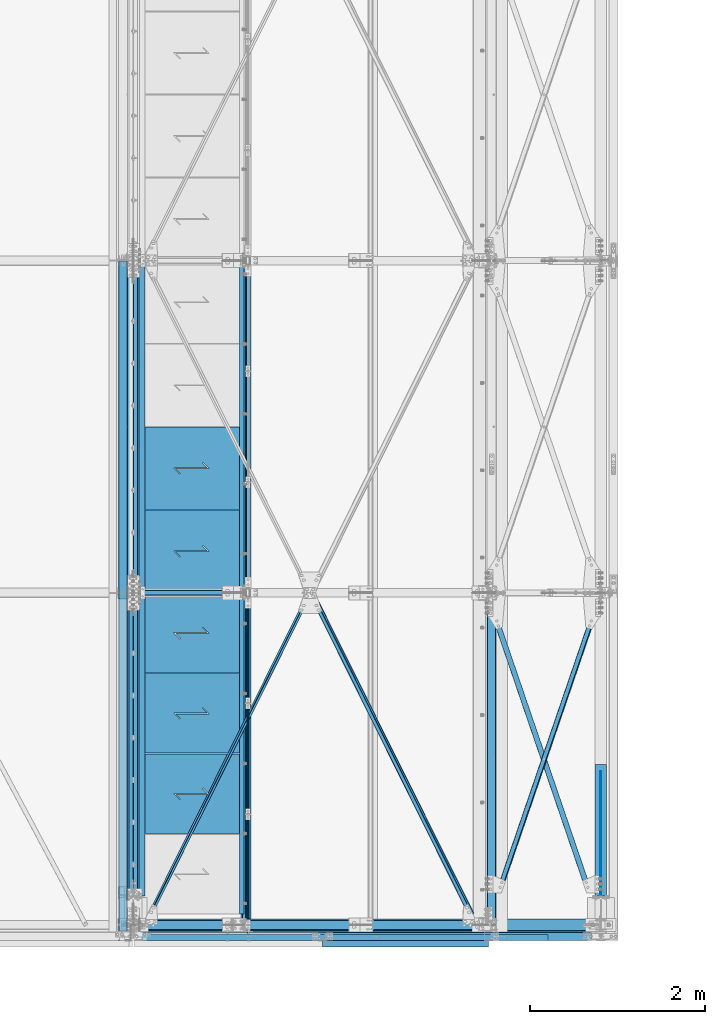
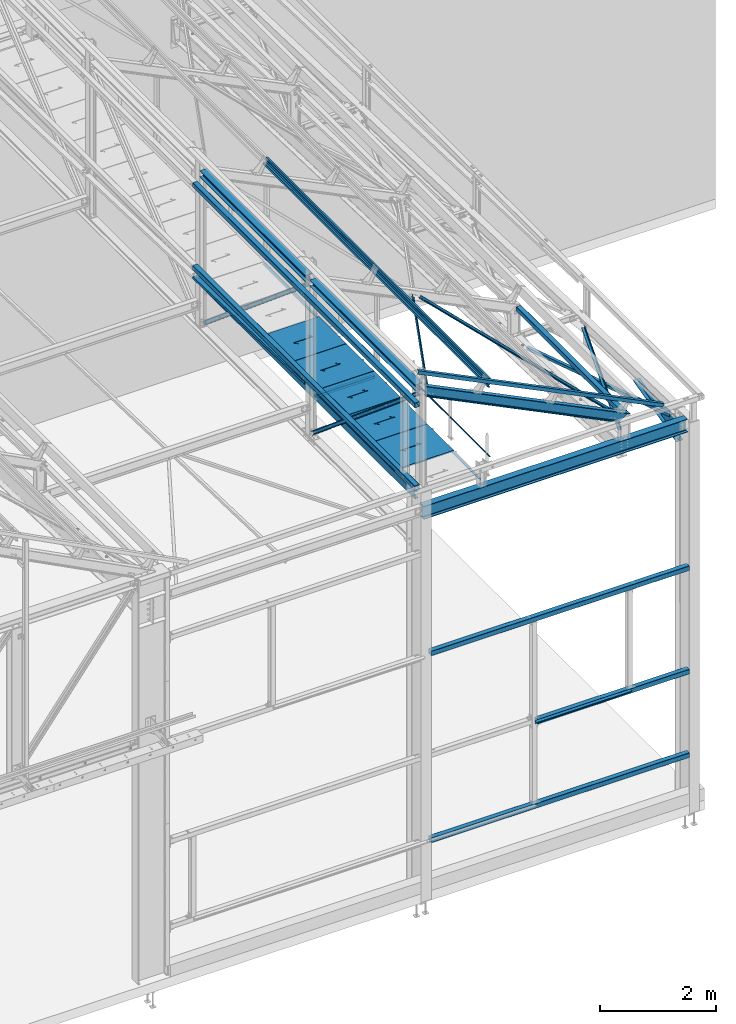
# One storey, part 55 of 362: 27 beams, 5 members, 30 elements without a shape of their own.
"""IFC2X3 building model written with IfcOpenShell, lengths in millimetres."""

from ifc_helpers import new_model, si_unit, frame, origin_with_axes, origin_2d_with_axis, place, context, subcontext, project, spatial, polyline, rectangle, hollow_rectangle, hollow_circle, i_section, l_section, u_section, outline, extrude, boolean, clip, halfspace, material, type_object, element, aggregate, save


model = new_model("IFC2X3")

# Units and contexts
model_context = context("Model", 3, precision=1e-05, world=origin_with_axes())
body_context = subcontext(model_context, "Body", "Model", "MODEL_VIEW")
ifc_project = project(units=[si_unit("LENGTHUNIT", "METRE", prefix="MILLI"), si_unit("AREAUNIT", "SQUARE_METRE"), si_unit("VOLUMEUNIT", "CUBIC_METRE"), si_unit("MASSUNIT", "GRAM", prefix="KILO"), si_unit("TIMEUNIT", "SECOND"), si_unit("PLANEANGLEUNIT", "RADIAN"), si_unit("SOLIDANGLEUNIT", "STERADIAN"), si_unit("THERMODYNAMICTEMPERATUREUNIT", "DEGREE_CELSIUS"), si_unit("LUMINOUSINTENSITYUNIT", "LUMEN")], contexts=[model_context])

# Site, building, storey
site_placement = place(None, origin_with_axes())
site = spatial("IfcSite", under=ifc_project, at=site_placement, Name="Undefined", CompositionType="ELEMENT")
building_placement = place(site_placement, origin_with_axes())
building = spatial("IfcBuilding", under=site, at=building_placement, Name="Undefined", CompositionType="ELEMENT")
storey_placement = place(building_placement, origin_with_axes())
storey = spatial("IfcBuildingStorey", under=building, at=storey_placement, Name="Undefined", CompositionType="ELEMENT", Elevation=0.0)

# Assembly, beam
assembly_1_placement = place(storey_placement, origin_with_axes())
assembly_1 = element("IfcElementAssembly", 1, at=assembly_1_placement, inside=storey, Name="SUPPORT", AssemblyPlace="NOTDEFINED", PredefinedType="NOTDEFINED")
ifc_material_1 = material(Name="Undefined/S235-E24")
beam_type_1 = type_object("IfcBeamType", Name="L50*5", PredefinedType="NOTDEFINED")
beam_1_placement = place(assembly_1_placement, frame((35521.4917137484, 7595.00000000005, 8075.0), z_axis=(-1.0, 0.0, 0.0), x_axis=(0.0, -1.0, 0.0)))
beam_1 = element("IfcBeam", 2, at=beam_1_placement, type_object=beam_type_1, material=ifc_material_1, Name="SUPPORT", ObjectType="L50*5", context=body_context, shape_type="SweptSolid", body=[
    extrude(l_section(Depth=50.0, Width=50.0, Thickness=5.0, FilletRadius=7.0, EdgeRadius=3.5, at=origin_2d_with_axis()), frame((7469.99982384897, 0.0, 0.0), z_axis=(-1.0, 0.0, 0.0), x_axis=(0.0, -1.0, 0.0)), (0.0, 0.0, 1.0), 7470.0),
])
aggregate(assembly_1, [beam_1])

assembly_2_placement = place(storey_placement, origin_with_axes())
assembly_2 = element("IfcElementAssembly", 3, at=assembly_2_placement, inside=storey, AssemblyPlace="NOTDEFINED", PredefinedType="NOTDEFINED")
beam_2_placement = place(assembly_2_placement, frame((36314.0683462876, 3801.21209552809, 9506.75815097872), z_axis=(0.784869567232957, -0.484835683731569, -0.385893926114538), x_axis=(-0.43509087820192, -0.874605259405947, 0.213919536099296)))
beam_2 = element("IfcBeam", 4, at=beam_2_placement, type_object=beam_type_1, material=ifc_material_1, Name="STABILITE CVT", ObjectType="L50*5", context=body_context, shape_type="Clipping", body=[
    clip(clip(extrude(l_section(Depth=50.0, Width=50.0, Thickness=5.0, FilletRadius=7.0, EdgeRadius=3.5, at=origin_2d_with_axis()), frame((4262.41787878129, 0.0, 1.18305861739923e-13), z_axis=(-1.0, 0.0, 0.0), x_axis=(0.0, -1.0, 0.0)), (0.0, 0.0, 1.0), 4180.02), halfspace(frame((4208.92584894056, 24.9999461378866, 24.9999985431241), z_axis=(-1.0, 0.0, 0.0), x_axis=(0.0, -1.0, 0.0)), True)), halfspace(frame((135.890681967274, 24.9993722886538, -24.9999998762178), z_axis=(1.0, 0.0, 0.0), x_axis=(0.0, -1.0, 0.0)), True)),
])
aggregate(assembly_2, [beam_2])

assembly_3_placement = place(storey_placement, origin_with_axes())
assembly_3 = element("IfcElementAssembly", 5, at=assembly_3_placement, inside=storey, AssemblyPlace="NOTDEFINED", PredefinedType="NOTDEFINED")
beam_3_placement = place(assembly_3_placement, frame((38208.3828950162, 1.21208402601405, 8575.38678262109), z_axis=(-0.78486955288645, -0.48483570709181, 0.385893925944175), x_axis=(-0.435090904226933, 0.874605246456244, 0.213919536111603)))
beam_3 = element("IfcBeam", 6, at=beam_3_placement, type_object=beam_type_1, material=ifc_material_1, Name="STABILITE CVT", ObjectType="L50*5", context=body_context, shape_type="Clipping", body=[
    clip(clip(extrude(l_section(Depth=50.0, Width=50.0, Thickness=5.0, FilletRadius=7.0, EdgeRadius=3.5, at=origin_2d_with_axis()), frame((4267.3918308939, 7.27595761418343e-12, -3.55331749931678e-13), z_axis=(-1.0, 0.0, 0.0), x_axis=(0.0, -1.0, 0.0)), (0.0, 0.0, 1.0), 4189.97), halfspace(frame((4208.92662626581, 24.9993342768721, -25.0000000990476), z_axis=(1.0, 0.0, 0.0), x_axis=(0.0, -1.0, 0.0)), False)), halfspace(frame((135.89147841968, 24.9987115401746, 24.9999250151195), z_axis=(1.0, 0.0, 0.0), x_axis=(0.0, 0.0, -1.0)), True)),
])
aggregate(assembly_3, [beam_3])

assembly_4_placement = place(storey_placement, origin_with_axes())
assembly_4 = element("IfcElementAssembly", 7, at=assembly_4_placement, inside=storey, AssemblyPlace="NOTDEFINED", PredefinedType="NOTDEFINED")
beam_type_2 = type_object("IfcBeamType", Name="L60*6", PredefinedType="NOTDEFINED")
beam_4_placement = place(assembly_4_placement, frame((39627.161389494, -3.98559414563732, 7894.04752087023), z_axis=(0.946212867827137, 0.323385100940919, -0.0101629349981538), x_axis=(-0.323544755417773, 0.945745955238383, -0.0297216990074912)))
beam_4 = element("IfcBeam", 8, at=beam_4_placement, type_object=beam_type_2, material=ifc_material_1, Name="STABILITE CVT", ObjectType="L60*6", context=body_context, shape_type="Clipping", body=[
    clip(clip(extrude(l_section(Depth=60.0, Width=60.0, Thickness=6.0, FilletRadius=8.0, EdgeRadius=4.0, at=origin_2d_with_axis()), frame((3750.95227309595, 0.0, 3.7963490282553e-13), z_axis=(-1.0, 0.0, 0.0), x_axis=(0.0, -1.0, 0.0)), (0.0, 0.0, 1.0), 3363.91), halfspace(frame((3710.26372269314, 60.0043479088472, -30.000010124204), z_axis=(-0.99999999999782, -2.08799999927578e-06, 0.0), x_axis=(-1.15500000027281e-06, 0.999999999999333, 0.0)), True)), halfspace(frame((427.727369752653, 60.0002311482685, 29.9999514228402), z_axis=(0.999999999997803, 2.09200000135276e-06, 1.31999999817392e-07), x_axis=(-1.15500000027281e-06, 0.999999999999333, 0.0)), True)),
])
aggregate(assembly_4, [beam_4])

assembly_5_placement = place(storey_placement, origin_with_axes())
assembly_5 = element("IfcElementAssembly", 9, at=assembly_5_placement, inside=storey, AssemblyPlace="NOTDEFINED", PredefinedType="NOTDEFINED")
beam_5_placement = place(assembly_5_placement, frame((38332.8386386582, -1.91251005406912, 7960.01489811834), z_axis=(-0.946212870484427, 0.323385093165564, -0.0101629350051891), x_axis=(0.32354466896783, 0.945745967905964, -0.0297222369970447)))
beam_5 = element("IfcBeam", 10, at=beam_5_placement, type_object=beam_type_2, material=ifc_material_1, Name="STABILITE CVT", ObjectType="L60*6", context=body_context, shape_type="Clipping", body=[
    clip(clip(extrude(l_section(Depth=60.0, Width=60.0, Thickness=6.0, FilletRadius=8.0, EdgeRadius=4.0, at=origin_2d_with_axis()), frame((3749.34856419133, 0.0, 3.16667539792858e-13), z_axis=(-1.0, 0.0, 0.0), x_axis=(0.0, -1.0, 0.0)), (0.0, 0.0, 1.0), 3360.71), halfspace(frame((3710.26373630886, -60.0043358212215, -30.0000327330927), z_axis=(0.999999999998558, -1.69800000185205e-06, 0.0), x_axis=(-1.23815191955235e-06, -0.999999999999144, -4.23097022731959e-07)), False)), halfspace(frame((427.727444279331, -60.0002447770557, 29.9999646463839), z_axis=(-0.999999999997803, 2.09199999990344e-06, -1.31999999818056e-07), x_axis=(-1.23815191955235e-06, -0.999999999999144, -4.23097022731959e-07)), False)),
])
aggregate(assembly_5, [beam_5])

assembly_6_placement = place(storey_placement, origin_with_axes())
assembly_6 = element("IfcElementAssembly", 11, at=assembly_6_placement, inside=storey, Name="LISSE", AssemblyPlace="NOTDEFINED", PredefinedType="NOTDEFINED")
beam_type_3 = type_object("IfcBeamType", Name="UPF-100*50*4", PredefinedType="NOTDEFINED")
beam_6_placement = place(assembly_6_placement, frame((34163.5001162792, 3730.03454686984, 8413.05496432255), z_axis=(1.0, 0.0, 0.0), x_axis=(0.0, 0.99950644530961, -0.0314144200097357)))
beam_6 = element("IfcBeam", 12, at=beam_6_placement, type_object=beam_type_3, material=ifc_material_1, Name="LISSE CONTREBARDAGE", ObjectType="UPF-100*50*4", context=body_context, shape_type="SweptSolid", body=[
    extrude(u_section(Depth=100.0, FlangeWidth=50.0, WebThickness=4.0, FlangeThickness=4.0, at=origin_2d_with_axis()), frame((3864.8364307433, 0.0, 0.0), z_axis=(-1.0, 0.0, 0.0), x_axis=(0.0, -1.0, 0.0)), (0.0, 0.0, 1.0), 3864.84),
])
aggregate(assembly_6, [beam_6])

assembly_7_placement = place(storey_placement, origin_with_axes())
assembly_7 = element("IfcElementAssembly", 13, at=assembly_7_placement, inside=storey, Name="LISSE", AssemblyPlace="NOTDEFINED", PredefinedType="NOTDEFINED")
beam_type_4 = type_object("IfcBeamType", Name="TUBE-C-100*100*4", PredefinedType="NOTDEFINED")
beam_7_placement = place(assembly_7_placement, frame((36500.0025851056, -129.999792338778, 2810.00000034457), z_axis=(0.0, 0.0, -1.0), x_axis=(1.0, 0.0, 0.0)))
beam_7 = element("IfcBeam", 14, at=beam_7_placement, type_object=beam_type_4, material=ifc_material_1, Name="LISSE CHASSIS", ObjectType="TUBE-C-100*100*4", context=body_context, shape_type="SweptSolid", body=[
    extrude(hollow_rectangle(XDim=100.0, YDim=100.0, WallThickness=4.0, InnerFilletRadius=4.0, OuterFilletRadius=8.0, at=origin_2d_with_axis()), frame((3024.99741454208, -2.82644087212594e-21, -4.54747350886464e-13), z_axis=(-1.0, 0.0, 0.0), x_axis=(0.0, -1.0, 0.0)), (0.0, 0.0, 1.0), 3025.0),
])

assembly_8_placement = place(storey_placement, origin_with_axes())
assembly_8 = element("IfcElementAssembly", 15, at=assembly_8_placement, inside=storey, Name="LISSE", AssemblyPlace="NOTDEFINED", PredefinedType="NOTDEFINED")
beam_8_placement = place(assembly_8_placement, frame((34163.4999999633, -70.0000009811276, 10244.999999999), z_axis=(0.0, 0.0, -1.0), x_axis=(0.0, 1.0, 0.0)))
beam_8 = element("IfcBeam", 16, at=beam_8_placement, type_object=beam_type_4, material=ifc_material_1, Name="LISSE ACROTERE", ObjectType="TUBE-C-100*100*4", context=body_context, shape_type="SweptSolid", body=[
    extrude(hollow_rectangle(XDim=100.0, YDim=100.0, WallThickness=4.0, InnerFilletRadius=4.0, OuterFilletRadius=8.0, at=origin_2d_with_axis()), frame((7664.99999999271, 0.0, 0.0), z_axis=(-1.0, 0.0, 0.0), x_axis=(0.0, -1.0, 0.0)), (0.0, 0.0, 1.0), 7665.0),
])
aggregate(assembly_8, [beam_8])

assembly_9_placement = place(storey_placement, origin_with_axes())
assembly_9 = element("IfcElementAssembly", 17, at=assembly_9_placement, inside=storey, Name="LISSE", AssemblyPlace="NOTDEFINED", PredefinedType="NOTDEFINED")
beam_9_placement = place(assembly_9_placement, frame((34384.9999999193, -129.999801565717, 4989.99996534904), z_axis=(0.0, 0.0, 1.0), x_axis=(1.0, 0.0, 0.0)))
beam_9 = element("IfcBeam", 18, at=beam_9_placement, type_object=beam_type_4, material=ifc_material_1, Name="LISSE CHASSIS", ObjectType="TUBE-C-100*100*4", context=body_context, shape_type="SweptSolid", body=[
    extrude(hollow_rectangle(XDim=100.0, YDim=100.0, WallThickness=4.0, InnerFilletRadius=4.0, OuterFilletRadius=8.0, at=origin_2d_with_axis()), frame((5139.99999998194, -7.8549075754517e-22, 0.0), z_axis=(-1.0, 0.0, 0.0), x_axis=(0.0, -1.0, 0.0)), (0.0, 0.0, 1.0), 5140.0),
])
aggregate(assembly_9, [beam_9])

assembly_10_placement = place(storey_placement, origin_with_axes())
assembly_10 = element("IfcElementAssembly", 19, at=assembly_10_placement, inside=storey, Name="LISSE", AssemblyPlace="NOTDEFINED", PredefinedType="NOTDEFINED")
beam_10_placement = place(assembly_10_placement, frame((34385.0000004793, -129.999801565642, 1049.99996534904), z_axis=(0.0, 0.0, 1.0), x_axis=(1.0, 0.0, 0.0)))
beam_10 = element("IfcBeam", 20, at=beam_10_placement, type_object=beam_type_4, material=ifc_material_1, Name="LISSE CHASSIS", ObjectType="TUBE-C-100*100*4", context=body_context, shape_type="SweptSolid", body=[
    extrude(hollow_rectangle(XDim=100.0, YDim=100.0, WallThickness=4.0, InnerFilletRadius=4.0, OuterFilletRadius=8.0, at=origin_2d_with_axis()), frame((5139.99999998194, -7.8549075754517e-22, 0.0), z_axis=(-1.0, 0.0, 0.0), x_axis=(0.0, -1.0, 0.0)), (0.0, 0.0, 1.0), 5140.0),
])
aggregate(assembly_10, [beam_10])

assembly_11_placement = place(storey_placement, origin_with_axes())
assembly_11 = element("IfcElementAssembly", 21, at=assembly_11_placement, inside=storey, Name="LISSE", AssemblyPlace="NOTDEFINED", PredefinedType="NOTDEFINED")
beam_11_placement = place(assembly_11_placement, frame((34163.5, -70.0, 8500.0), z_axis=(0.0, 0.0, 1.0), x_axis=(0.0, 1.0, 0.0)))
beam_11 = element("IfcBeam", 22, at=beam_11_placement, type_object=beam_type_4, material=ifc_material_1, Name="LISSE ACROTERE", ObjectType="TUBE-C-100*100*4", context=body_context, shape_type="SweptSolid", body=[
    extrude(hollow_rectangle(XDim=100.0, YDim=100.0, WallThickness=4.0, InnerFilletRadius=4.0, OuterFilletRadius=8.0, at=origin_2d_with_axis()), frame((7664.99999999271, 0.0, 0.0), z_axis=(-1.0, 0.0, 0.0), x_axis=(0.0, -1.0, 0.0)), (0.0, 0.0, 1.0), 7665.0),
])
aggregate(assembly_11, [beam_11])

assembly_12_placement = place(storey_placement, origin_with_axes())
assembly_12 = element("IfcElementAssembly", 23, at=assembly_12_placement, inside=storey, Name="LISSE", AssemblyPlace="NOTDEFINED", PredefinedType="NOTDEFINED")
beam_12_placement = place(assembly_12_placement, frame((38380.0, 70.0, 8500.0), z_axis=(0.0, 0.0, 1.0), x_axis=(0.0, 1.0, 0.0)))
beam_12 = element("IfcBeam", 24, at=beam_12_placement, type_object=beam_type_4, material=ifc_material_1, Name="LISSE ACROTERE", ObjectType="TUBE-C-100*100*4", context=body_context, shape_type="SweptSolid", body=[
    extrude(hollow_rectangle(XDim=100.0, YDim=100.0, WallThickness=4.0, InnerFilletRadius=4.0, OuterFilletRadius=8.0, at=origin_2d_with_axis()), frame((3660.0, 0.0, 0.0), z_axis=(-1.0, 0.0, 0.0), x_axis=(0.0, -1.0, 0.0)), (0.0, 0.0, 1.0), 3660.0),
])
aggregate(assembly_12, [beam_12])

assembly_13_placement = place(storey_placement, origin_with_axes())
assembly_13 = element("IfcElementAssembly", 25, at=assembly_13_placement, inside=storey, AssemblyPlace="NOTDEFINED", PredefinedType="NOTDEFINED")
beam_type_5 = type_object("IfcBeamType", Name="TOLE30*910", PredefinedType="NOTDEFINED")
beam_13_placement = place(assembly_13_placement, frame((35536.4916120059, 1955.00033356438, 8115.0), z_axis=(0.0, 0.0, 1.0), x_axis=(-1.0, 0.0, 0.0)))
beam_13 = element("IfcBeam", 26, at=beam_13_placement, type_object=beam_type_5, material=ifc_material_1, Name="CAILLEBOTIS", ObjectType="TOLE30*910", context=body_context, shape_type="CSG", body=[
    boolean("DIFFERENCE", extrude(outline(polyline([(0.0, 0.0), (1179.99169921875, 0.0), (1179.99169921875, 910.0), (-9.39995516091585e-07, 910.0), (0.0, 0.0)])), frame((0.0, 0.0, -15.0), z_axis=(0.0, 0.0, 1.0), x_axis=(1.0, 0.0, 0.0)), (0.0, 0.0, 1.0), 30.0), extrude(outline(polyline([(0.0, 0.0), (9.99999999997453, 6.91215973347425e-11), (10.0000000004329, 75.8578643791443), (282.842712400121, -196.984848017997), (282.842712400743, -96.9848480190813), (272.842712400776, -96.9848480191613), (272.842712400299, -172.842712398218), (0.0, 100.0), (0.0, 0.0)])), frame((724.285170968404, 520.710678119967, -17.5), z_axis=(0.0, 0.0, 1.0), x_axis=(-0.707106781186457, -0.707106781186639, 0.0)), (0.0, 0.0, 1.0), 35.0)),
])
aggregate(assembly_13, [beam_13])

assembly_14_placement = place(storey_placement, origin_with_axes())
assembly_14 = element("IfcElementAssembly", 27, at=assembly_14_placement, inside=storey, AssemblyPlace="NOTDEFINED", PredefinedType="NOTDEFINED")
beam_14_placement = place(assembly_14_placement, frame((35536.4916120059, 2875.00032879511, 8115.0), z_axis=(0.0, 0.0, 1.0), x_axis=(-1.0, 0.0, 0.0)))
beam_14 = element("IfcBeam", 28, at=beam_14_placement, type_object=beam_type_5, material=ifc_material_1, Name="CAILLEBOTIS", ObjectType="TOLE30*910", context=body_context, shape_type="CSG", body=[
    boolean("DIFFERENCE", extrude(outline(polyline([(0.0, 0.0), (1179.99169921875, 0.0), (1179.99169921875, 910.0), (-9.39995516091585e-07, 910.0), (0.0, 0.0)])), frame((0.0, 0.0, -15.0), z_axis=(0.0, 0.0, 1.0), x_axis=(1.0, 0.0, 0.0)), (0.0, 0.0, 1.0), 30.0), extrude(outline(polyline([(0.0, 0.0), (9.99999999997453, 6.91215973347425e-11), (10.0000000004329, 75.8578643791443), (282.842712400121, -196.984848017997), (282.842712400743, -96.9848480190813), (272.842712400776, -96.9848480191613), (272.842712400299, -172.842712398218), (0.0, 100.0), (0.0, 0.0)])), frame((724.285170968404, 520.710678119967, -17.5), z_axis=(0.0, 0.0, 1.0), x_axis=(-0.707106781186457, -0.707106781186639, 0.0)), (0.0, 0.0, 1.0), 35.0)),
])
aggregate(assembly_14, [beam_14])

assembly_15_placement = place(storey_placement, origin_with_axes())
assembly_15 = element("IfcElementAssembly", 29, at=assembly_15_placement, inside=storey, AssemblyPlace="NOTDEFINED", PredefinedType="NOTDEFINED")
beam_15_placement = place(assembly_15_placement, frame((35536.4916120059, 3795.00032402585, 8115.0), z_axis=(0.0, 0.0, 1.0), x_axis=(-1.0, 0.0, 0.0)))
beam_15 = element("IfcBeam", 30, at=beam_15_placement, type_object=beam_type_5, material=ifc_material_1, Name="CAILLEBOTIS", ObjectType="TOLE30*910", context=body_context, shape_type="CSG", body=[
    boolean("DIFFERENCE", extrude(outline(polyline([(0.0, 0.0), (1179.99169921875, 0.0), (1179.99169921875, 910.0), (-9.39995516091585e-07, 910.0), (0.0, 0.0)])), frame((0.0, 0.0, -15.0), z_axis=(0.0, 0.0, 1.0), x_axis=(1.0, 0.0, 0.0)), (0.0, 0.0, 1.0), 30.0), extrude(outline(polyline([(0.0, 0.0), (9.99999999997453, 6.91215973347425e-11), (10.0000000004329, 75.8578643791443), (282.842712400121, -196.984848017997), (282.842712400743, -96.9848480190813), (272.842712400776, -96.9848480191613), (272.842712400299, -172.842712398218), (0.0, 100.0), (0.0, 0.0)])), frame((724.285170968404, 520.710678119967, -17.5), z_axis=(0.0, 0.0, 1.0), x_axis=(-0.707106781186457, -0.707106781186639, 0.0)), (0.0, 0.0, 1.0), 35.0)),
])
aggregate(assembly_15, [beam_15])

assembly_16_placement = place(storey_placement, origin_with_axes())
assembly_16 = element("IfcElementAssembly", 31, at=assembly_16_placement, inside=storey, AssemblyPlace="NOTDEFINED", PredefinedType="NOTDEFINED")
beam_type_6 = type_object("IfcBeamType", Name="TOLE30*940", PredefinedType="NOTDEFINED")
beam_16_placement = place(assembly_16_placement, frame((35536.4915949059, 4745.00031925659, 8115.0), z_axis=(0.0, 0.0, 1.0), x_axis=(-1.0, 0.0, 0.0)))
beam_16 = element("IfcBeam", 32, at=beam_16_placement, type_object=beam_type_6, material=ifc_material_1, Name="CAILLEBOTIS", ObjectType="TOLE30*940", context=body_context, shape_type="CSG", body=[
    boolean("DIFFERENCE", extrude(outline(polyline([(0.0, 0.0), (1179.99169921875, 0.0), (1179.99169921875, 940.0), (-9.39995516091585e-07, 940.0), (0.0, 0.0)])), frame((0.0, 0.0, -15.0), z_axis=(0.0, 0.0, 1.0), x_axis=(1.0, 0.0, 0.0)), (0.0, 0.0, 1.0), 30.0), extrude(outline(polyline([(0.0, 0.0), (9.99999999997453, 6.91215973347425e-11), (10.0000000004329, 75.8578643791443), (282.842712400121, -196.984848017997), (282.842712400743, -96.9848480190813), (272.842712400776, -96.9848480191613), (272.842712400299, -172.842712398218), (0.0, 100.0), (0.0, 0.0)])), frame((724.286946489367, 535.710676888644, -17.5), z_axis=(0.0, 0.0, 1.0), x_axis=(-0.707106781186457, -0.707106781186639, 0.0)), (0.0, 0.0, 1.0), 35.0)),
])
aggregate(assembly_16, [beam_16])

assembly_17_placement = place(storey_placement, origin_with_axes())
assembly_17 = element("IfcElementAssembly", 33, at=assembly_17_placement, inside=storey, AssemblyPlace="NOTDEFINED", PredefinedType="NOTDEFINED")
beam_17_placement = place(assembly_17_placement, frame((35536.4916006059, 5695.00031925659, 8115.0), z_axis=(0.0, 0.0, 1.0), x_axis=(-1.0, 0.0, 0.0)))
beam_17 = element("IfcBeam", 34, at=beam_17_placement, type_object=beam_type_6, material=ifc_material_1, Name="CAILLEBOTIS", ObjectType="TOLE30*940", context=body_context, shape_type="CSG", body=[
    boolean("DIFFERENCE", extrude(outline(polyline([(0.0, 0.0), (1179.99169921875, 0.0), (1179.99169921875, 940.0), (-9.39995516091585e-07, 940.0), (0.0, 0.0)])), frame((0.0, 0.0, -15.0), z_axis=(0.0, 0.0, 1.0), x_axis=(1.0, 0.0, 0.0)), (0.0, 0.0, 1.0), 30.0), extrude(outline(polyline([(0.0, 0.0), (9.99999999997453, 6.91215973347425e-11), (10.0000000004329, 75.8578643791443), (282.842712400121, -196.984848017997), (282.842712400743, -96.9848480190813), (272.842712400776, -96.9848480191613), (272.842712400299, -172.842712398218), (0.0, 100.0), (0.0, 0.0)])), frame((724.286946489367, 535.710676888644, -17.5), z_axis=(0.0, 0.0, 1.0), x_axis=(-0.707106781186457, -0.707106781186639, 0.0)), (0.0, 0.0, 1.0), 35.0)),
])
aggregate(assembly_17, [beam_17])

# Beam
beam_type_7 = type_object("IfcBeamType", Name="L70*7", PredefinedType="NOTDEFINED")
beam_18_placement = place(assembly_7_placement, frame((36445.0025836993, -215.000007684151, 2825.0), z_axis=(0.0, -1.0, 0.0), x_axis=(1.0, 0.0, 0.0)))
beam_18 = element("IfcBeam", 35, at=beam_18_placement, type_object=beam_type_7, material=ifc_material_1, Name="SUPPORT", ObjectType="L70*7", context=body_context, shape_type="SweptSolid", body=[
    extrude(l_section(Depth=70.0, Width=70.0, Thickness=7.0, FilletRadius=9.0, EdgeRadius=4.5, at=origin_2d_with_axis()), frame((1899.99781571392, 0.0, 0.0), z_axis=(-1.0, 0.0, 0.0), x_axis=(0.0, -1.0, 0.0)), (0.0, 0.0, 1.0), 1900.0),
])

aggregate(assembly_7, [beam_7, beam_18])

# Assembly, beams
assembly_18_placement = place(storey_placement, origin_with_axes())
assembly_18 = element("IfcElementAssembly", 36, at=assembly_18_placement, inside=storey, Name="TRAVERSE", AssemblyPlace="NOTDEFINED", PredefinedType="NOTDEFINED")
beam_type_8 = type_object("IfcBeamType", Name="TOLE8*417", PredefinedType="NOTDEFINED")
beam_19_placement = place(assembly_18_placement, frame((39630.0, 335.0, 7769.33890642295), z_axis=(-1.0, 0.0, 0.0), x_axis=(3.14103090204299e-11, 0.999506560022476, -0.0314107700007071)))
beam_19 = element("IfcBeam", 37, at=beam_19_placement, type_object=beam_type_8, material=ifc_material_1, Name="JARRET", ObjectType="TOLE8*417", context=body_context, shape_type="SweptSolid", body=[
    extrude(outline(polyline([(0.942322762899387, 29.9851968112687), (30.0, 0.0), (1419.99999999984, -1.22432538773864e-09), (1423.27844149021, 22.6672111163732), (42.569691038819, 430.594491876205), (12.856783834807, 409.109499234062), (0.942322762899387, 29.9851968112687)])), frame((0.0, 0.0, -4.0), z_axis=(0.0, 0.0, 1.0), x_axis=(1.0, 0.0, 0.0)), (0.0, 0.0, 1.0), 8.0),
])
beam_type_9 = type_object("IfcBeamType", Name="PL10*135", PredefinedType="NOTDEFINED")
beam_20_placement = place(assembly_18_placement, frame((39630.0, 1835.52522447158, 7717.38553692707), z_axis=(1.0, 0.0, 0.0), x_axis=(0.0, -0.967446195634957, -0.253076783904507)))
beam_20 = element("IfcBeam", 38, at=beam_20_placement, type_object=beam_type_9, material=ifc_material_1, Name="JARRET", ObjectType="PL10*135", context=body_context, shape_type="SweptSolid", body=[
    extrude(rectangle(XDim=10.0, YDim=135.0, at=origin_2d_with_axis()), frame((1549.7087562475, 0.0, 0.0), z_axis=(-1.0, 0.0, 0.0), x_axis=(0.0, -1.0, 0.0)), (0.0, 0.0, 1.0), 1549.71),
])
aggregate(assembly_18, [beam_19, beam_20])

# Assembly, beam
assembly_19_placement = place(storey_placement, origin_with_axes())
assembly_19 = element("IfcElementAssembly", 39, at=assembly_19_placement, inside=storey, Name="MAIN COURANTE", AssemblyPlace="NOTDEFINED", PredefinedType="NOTDEFINED")
beam_type_10 = type_object("IfcBeamType", Name="TUBE-26.9*2", PredefinedType="NOTDEFINED")
beam_21_placement = place(assembly_19_placement, frame((35593.9917143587, 3744.99999422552, 8673.80000478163), z_axis=(0.0, 0.0, 1.0), x_axis=(0.0, -1.0, 0.0)))
beam_21 = element("IfcBeam", 40, at=beam_21_placement, type_object=beam_type_10, material=ifc_material_1, Name="LISSE", ObjectType="TUBE-26.9*2", context=body_context, shape_type="SweptSolid", body=[
    extrude(hollow_circle(Radius=13.44999981, WallThickness=2.0, at=origin_2d_with_axis()), frame((3845.00000000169, 3.84500099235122e-24, 0.0), z_axis=(-1.0, 0.0, 0.0), x_axis=(0.0, -1.0, 0.0)), (0.0, 0.0, 1.0), 3845.0),
])
aggregate(assembly_19, [beam_21])

assembly_20_placement = place(storey_placement, origin_with_axes())
assembly_20 = element("IfcElementAssembly", 41, at=assembly_20_placement, inside=storey, AssemblyPlace="NOTDEFINED", PredefinedType="NOTDEFINED")
ifc_material_2 = material(Name="Undefined/S275-E28")
beam_type_11 = type_object("IfcBeamType", Name="HEA140", PredefinedType="NOTDEFINED")
beam_22_placement = place(assembly_20_placement, frame((34283.5, 3725.0, 10489.5), z_axis=(0.0, 0.0, 1.0), x_axis=(0.0, -1.0, 0.0)))
beam_22 = element("IfcBeam", 42, at=beam_22_placement, type_object=beam_type_11, material=ifc_material_2, Name="LONGERON", ObjectType="HEA140", context=body_context, shape_type="SweptSolid", body=[
    extrude(i_section(OverallWidth=140.0, OverallDepth=133.0, WebThickness=5.5, FlangeThickness=8.5, FilletRadius=12.0, at=origin_2d_with_axis()), frame((3650.0, 0.0, 0.0), z_axis=(-1.0, 0.0, 0.0), x_axis=(0.0, -1.0, 0.0)), (0.0, 0.0, 1.0), 3650.0),
])
aggregate(assembly_20, [beam_22])

assembly_21_placement = place(storey_placement, origin_with_axes())
assembly_21 = element("IfcElementAssembly", 43, at=assembly_21_placement, inside=storey, AssemblyPlace="NOTDEFINED", PredefinedType="NOTDEFINED")
beam_23_placement = place(assembly_21_placement, frame((34283.5, 7525.0, 10489.5), z_axis=(0.0, 0.0, 1.0), x_axis=(0.0, -1.0, 0.0)))
beam_23 = element("IfcBeam", 44, at=beam_23_placement, type_object=beam_type_11, material=ifc_material_2, Name="LONGERON", ObjectType="HEA140", context=body_context, shape_type="SweptSolid", body=[
    extrude(i_section(OverallWidth=140.0, OverallDepth=133.0, WebThickness=5.5, FlangeThickness=8.5, FilletRadius=12.0, at=origin_2d_with_axis()), frame((3650.0, 0.0, 0.0), z_axis=(-1.0, 0.0, 0.0), x_axis=(0.0, -1.0, 0.0)), (0.0, 0.0, 1.0), 3650.0),
])
aggregate(assembly_21, [beam_23])

assembly_22_placement = place(storey_placement, origin_with_axes())
assembly_22 = element("IfcElementAssembly", 45, at=assembly_22_placement, inside=storey, AssemblyPlace="NOTDEFINED", PredefinedType="NOTDEFINED")
beam_type_12 = type_object("IfcBeamType", Name="UPF-150*70*5", PredefinedType="NOTDEFINED")
beam_24_placement = place(assembly_22_placement, frame((34381.500055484, 330.000000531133, 8025.0), z_axis=(0.0, 0.0, 1.0), x_axis=(0.0, 1.0, 0.0)))
beam_24 = element("IfcBeam", 46, at=beam_24_placement, type_object=beam_type_12, material=ifc_material_1, Name="LONGERON", ObjectType="UPF-150*70*5", context=body_context, shape_type="SweptSolid", body=[
    extrude(u_section(Depth=150.0, FlangeWidth=70.0, WebThickness=5.0, FlangeThickness=5.0, at=origin_2d_with_axis()), frame((7265.00000099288, 0.0, 0.0), z_axis=(-1.0, 0.0, 0.0), x_axis=(0.0, -1.0, 0.0)), (0.0, 0.0, 1.0), 7265.0),
])
aggregate(assembly_22, [beam_24])

assembly_23_placement = place(storey_placement, origin_with_axes())
assembly_23 = element("IfcElementAssembly", 47, at=assembly_23_placement, inside=storey, Name="PANNE SHED", AssemblyPlace="NOTDEFINED", PredefinedType="NOTDEFINED")
beam_type_13 = type_object("IfcBeamType", Name="B140/150", PredefinedType="NOTDEFINED")
beam_25_placement = place(assembly_23_placement, frame((35571.322170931, -154.999920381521, 10245.2429542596), z_axis=(0.44122107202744, 0.0, 0.89739844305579), x_axis=(0.0, 1.0, 0.0)))
beam_25 = element("IfcBeam", 48, at=beam_25_placement, type_object=beam_type_13, material=ifc_material_1, Name="PANNE SHED", ObjectType="B140/150", context=body_context, shape_type="SweptSolid", body=[
    extrude(outline(polyline([(-27.9999999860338, 36.0000000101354), (-27.999999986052, 70.0000000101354), (28.0000000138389, 70.0000000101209), (28.0000000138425, 58.0000000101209), (26.5000000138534, 58.0000000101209), (26.5000000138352, 68.5000000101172), (-26.4999999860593, 68.5000000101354), (-26.4999999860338, 36.7000007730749), (-1.49999998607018, 15.6999998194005), (-1.49999998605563, -15.6999997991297), (-26.4999999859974, -36.7000007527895), (-26.4999999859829, -68.49999998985), (26.5000000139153, -68.4999999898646), (26.500000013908, -57.9999999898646), (28.0000000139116, -57.9999999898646), (28.0000000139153, -69.9999999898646), (-27.9999999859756, -69.99999998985), (-27.9999999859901, -35.99999998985), (-2.99999998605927, -14.9999999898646), (-2.9999999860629, 15.0000000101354), (-27.9999999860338, 36.0000000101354)])), frame((7750.00000000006, -3.63797880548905e-12, 0.0), z_axis=(-1.0, 0.0, 0.0), x_axis=(0.0, -1.0, 0.0)), (0.0, 0.0, 1.0), 7750.0),
])
aggregate(assembly_23, [beam_25])

# Assembly, member
assembly_24_placement = place(storey_placement, origin_with_axes())
assembly_24 = element("IfcElementAssembly", 49, at=assembly_24_placement, inside=storey, AssemblyPlace="NOTDEFINED", PredefinedType="NOTDEFINED")
member_type_1 = type_object("IfcMemberType", Name="L70*7", PredefinedType="NOTDEFINED")
member_1_placement = place(assembly_24_placement, frame((34119.0787216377, -144.999999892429, 11006.064600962), z_axis=(-0.441220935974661, 0.0, -0.89739850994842), x_axis=(0.897398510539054, 0.0, -0.44122093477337)))
member_1 = element("IfcMember", 50, at=member_1_placement, type_object=member_type_1, material=ifc_material_1, Name="FEUILLURE", ObjectType="L70*7", context=body_context, shape_type="SweptSolid", body=[
    extrude(l_section(Depth=70.0, Width=70.0, Thickness=7.0, FilletRadius=9.0, EdgeRadius=4.5, at=origin_2d_with_axis()), frame((5450.00354320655, 0.0, -3.0253597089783e-13), z_axis=(-1.0, 0.0, 0.0), x_axis=(0.0, -1.0, 0.0)), (0.0, 0.0, 1.0), 5450.0),
])
aggregate(assembly_24, [member_1])

assembly_25_placement = place(storey_placement, origin_with_axes())
assembly_25 = element("IfcElementAssembly", 51, at=assembly_25_placement, inside=storey, AssemblyPlace="NOTDEFINED", PredefinedType="NOTDEFINED")
member_type_2 = type_object("IfcMemberType", Name="UPN80", PredefinedType="NOTDEFINED")
member_2_placement = place(assembly_25_placement, frame((34307.4999999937, 7599.99999999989, 7250.0), z_axis=(0.0, -0.640939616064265, -0.767591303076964), x_axis=(0.0, -0.767591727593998, 0.640939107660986)))
member_2 = element("IfcMember", 52, at=member_2_placement, type_object=member_type_2, material=ifc_material_2, Name="DIAGONALE", ObjectType="UPN80", context=body_context, shape_type="Clipping", body=[
    clip(clip(extrude(u_section(Depth=80.0, FlangeWidth=45.0, WebThickness=6.0, FlangeThickness=8.0, FilletRadius=8.0, EdgeRadius=4.0, FlangeSlope=0.0798299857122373, at=origin_2d_with_axis()), frame((4910.05224962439, 0.0, 1.04649042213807e-12), z_axis=(-1.0, 0.0, 0.0), x_axis=(0.0, -1.0, 0.0)), (0.0, 0.0, 1.0), 4869.56), halfspace(frame((4830.54835301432, 27.49999999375, -39.9999989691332), z_axis=(-1.0, 0.0, 0.0), x_axis=(0.0, 1.0, 0.0)), True)), halfspace(frame((119.999999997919, 27.49999999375, -39.9999989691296), z_axis=(-1.0, 0.0, 0.0), x_axis=(0.0, 1.0, 0.0)), False)),
])
aggregate(assembly_25, [member_2])

assembly_26_placement = place(storey_placement, origin_with_axes())
assembly_26 = element("IfcElementAssembly", 53, at=assembly_26_placement, inside=storey, AssemblyPlace="NOTDEFINED", PredefinedType="NOTDEFINED")
member_3_placement = place(assembly_26_placement, frame((34307.5000000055, 3799.99999999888, 7250.0), z_axis=(0.0, -0.640939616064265, -0.767591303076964), x_axis=(0.0, -0.767591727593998, 0.640939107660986)))
member_3 = element("IfcMember", 54, at=member_3_placement, type_object=member_type_2, material=ifc_material_2, Name="DIAGONALE", ObjectType="UPN80", context=body_context, shape_type="Clipping", body=[
    clip(clip(extrude(u_section(Depth=80.0, FlangeWidth=45.0, WebThickness=6.0, FlangeThickness=8.0, FilletRadius=8.0, EdgeRadius=4.0, FlangeSlope=0.0798299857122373, at=origin_2d_with_axis()), frame((4910.04802976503, 0.0, -5.45124837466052e-13), z_axis=(-1.0, 0.0, 0.0), x_axis=(0.0, -1.0, 0.0)), (0.0, 0.0, 1.0), 4869.55), halfspace(frame((4830.54411414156, 27.5000000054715, -39.9999989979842), z_axis=(-1.0, 0.0, 0.0), x_axis=(0.0, 1.0, 0.0)), True)), halfspace(frame((119.999999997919, 27.49999999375, -39.9999989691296), z_axis=(-1.0, 0.0, 0.0), x_axis=(0.0, 1.0, 0.0)), False)),
])
aggregate(assembly_26, [member_3])

assembly_27_placement = place(storey_placement, origin_with_axes())
assembly_27 = element("IfcElementAssembly", 55, at=assembly_27_placement, inside=storey, AssemblyPlace="NOTDEFINED", PredefinedType="NOTDEFINED")
member_4_placement = place(assembly_27_placement, frame((34252.4999999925, 0.00552265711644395, 10422.9999997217), z_axis=(0.0, -0.640939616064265, -0.767591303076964), x_axis=(0.0, 0.767591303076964, -0.640939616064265)))
member_4 = element("IfcMember", 56, at=member_4_placement, type_object=member_type_2, material=ifc_material_2, Name="DIAGONALE", ObjectType="UPN80", context=body_context, shape_type="Clipping", body=[
    clip(clip(extrude(u_section(Depth=80.0, FlangeWidth=45.0, WebThickness=6.0, FlangeThickness=8.0, FilletRadius=8.0, EdgeRadius=4.0, FlangeSlope=0.0798299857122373, at=origin_2d_with_axis()), frame((4910.04802976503, 0.0, -5.45124837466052e-13), z_axis=(-1.0, 0.0, 0.0), x_axis=(0.0, -1.0, 0.0)), (0.0, 0.0, 1.0), 4869.55), halfspace(frame((4830.54411414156, 27.5000000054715, -39.9999989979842), z_axis=(1.0, 0.0, 0.0), x_axis=(0.0, -1.0, 0.0)), False)), halfspace(frame((119.999999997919, 27.49999999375, -39.9999989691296), z_axis=(1.0, 0.0, 0.0), x_axis=(0.0, -1.0, 0.0)), True)),
])
aggregate(assembly_27, [member_4])

# Assembly, beam
assembly_28_placement = place(storey_placement, origin_with_axes())
assembly_28 = element("IfcElementAssembly", 57, at=assembly_28_placement, inside=storey, AssemblyPlace="NOTDEFINED", PredefinedType="NOTDEFINED")
beam_type_14 = type_object("IfcBeamType", Name="TUBE-C-60*60*3", PredefinedType="NOTDEFINED")
beam_26_placement = place(assembly_28_placement, frame((34357.991943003, 3800.0, 8015.0), z_axis=(0.0, -1.0, 0.0), x_axis=(1.0, 0.0, 0.0)))
beam_26 = element("IfcBeam", 58, at=beam_26_placement, type_object=beam_type_14, material=ifc_material_1, Name="SOLIVE", ObjectType="TUBE-C-60*60*3", context=body_context, shape_type="SweptSolid", body=[
    extrude(hollow_rectangle(XDim=60.0, YDim=60.0, WallThickness=3.0, InnerFilletRadius=3.0, OuterFilletRadius=6.0, at=origin_2d_with_axis()), frame((1181.99977105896, 0.0, 0.0), z_axis=(-1.0, 0.0, 0.0), x_axis=(0.0, -1.0, 0.0)), (0.0, 0.0, 1.0), 1182.0),
])
aggregate(assembly_28, [beam_26])

assembly_29_placement = place(storey_placement, origin_with_axes())
assembly_29 = element("IfcElementAssembly", 59, at=assembly_29_placement, inside=storey, AssemblyPlace="NOTDEFINED", PredefinedType="NOTDEFINED")
beam_type_15 = type_object("IfcBeamType", Name="IPE270", PredefinedType="NOTDEFINED")
beam_27_placement = place(assembly_29_placement, frame((34295.0, -1.09937804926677, 7914.9697753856), z_axis=(7.58071938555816e-11, 0.0314107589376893, 0.999506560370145), x_axis=(1.0, 0.0, 0.0)))
beam_27 = element("IfcBeam", 60, at=beam_27_placement, type_object=beam_type_15, material=ifc_material_2, Name="PANNE", ObjectType="IPE270", context=body_context, shape_type="SweptSolid", body=[
    extrude(i_section(OverallWidth=135.0, OverallDepth=270.0, WebThickness=6.599999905, FlangeThickness=10.19999981, FilletRadius=15.0, at=origin_2d_with_axis()), frame((5260.00000000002, 0.0, 0.0), z_axis=(-1.0, 0.0, 0.0), x_axis=(0.0, -1.0, 0.0)), (0.0, 0.0, 1.0), 5260.0),
])
aggregate(assembly_29, [beam_27])

# Assembly, member
assembly_30_placement = place(storey_placement, origin_with_axes())
assembly_30 = element("IfcElementAssembly", 61, at=assembly_30_placement, inside=storey, Name="TRAVERSE SHED", AssemblyPlace="NOTDEFINED", PredefinedType="NOTDEFINED")
member_type_3 = type_object("IfcMemberType", Name="IPE200", PredefinedType="NOTDEFINED")
member_5_placement = place(assembly_30_placement, frame((34305.8779065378, -3.19837843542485e-09, 10466.2601489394), z_axis=(0.44122107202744, 0.0, 0.89739844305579), x_axis=(0.897398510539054, 0.0, -0.44122093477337)))
member_5 = element("IfcMember", 62, at=member_5_placement, type_object=member_type_3, material=ifc_material_2, Name="TRAVERSE SHED", ObjectType="IPE200", context=body_context, shape_type="Clipping", body=[
    clip(clip(extrude(i_section(OverallWidth=100.0, OverallDepth=200.0, WebThickness=5.599999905, FlangeThickness=8.5, FilletRadius=12.0, at=origin_2d_with_axis()), frame((4652.25219148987, 0.0, 0.0), z_axis=(-1.0, 0.0, 0.0), x_axis=(0.0, -1.0, 0.0)), (0.0, 0.0, 1.0), 4763.89), halfspace(frame((4421.9420250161, 3.19837843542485e-09, -100.0), z_axis=(0.848887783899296, 0.0, -0.528573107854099), x_axis=(0.0, -1.0, 0.0)), False)), halfspace(frame((5.83309030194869, 3.19837843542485e-09, 102.867936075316), z_axis=(-0.89739851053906, 0.0, -0.44122093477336), x_axis=(0.0, -1.0, 0.0)), False)),
])
aggregate(assembly_30, [member_5])

save(model, "model.ifc")
